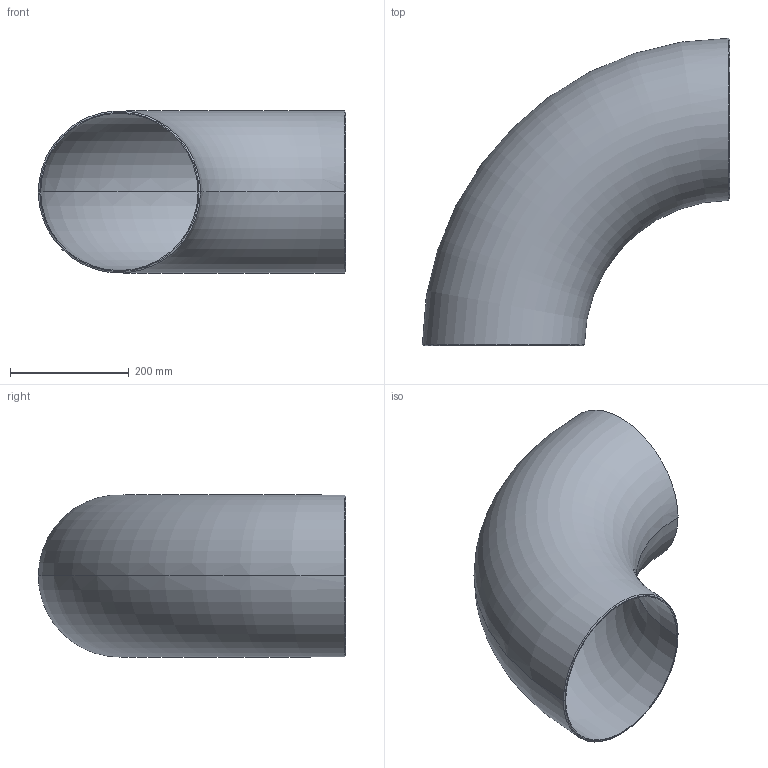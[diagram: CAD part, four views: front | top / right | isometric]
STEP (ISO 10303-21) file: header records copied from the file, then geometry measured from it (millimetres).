
FILE_DESCRIPTION (( 'STEP AP203' ), '1' );
FILE_NAME ('OT200-250-273x4_OSTP.step', '2020-12-16T03:03:48', ( '' ), ( '' ), 'SwSTEP 2.0', 'SolidWorks 2014', '' );
FILE_SCHEMA (( 'CONFIG_CONTROL_DESIGN' ));
Length unit declared in the file: millimetre
Products named in the file (1): OT200-250-273x4_OSTP
Bounding box: 517.5 x 517.5 x 272.81 mm (x, y, z)
Volume: 2012029.8 mm3; surface area: 1015927.3 mm2
Topology: 1 solids, 1 shells, 10 faces, 20 edges, 12 vertices
Faces by surface type: torus 4, cone 4, plane 2
Entity records: 614 total; most frequent: CARTESIAN_POINT 320, DIRECTION 50, ORIENTED_EDGE 40, AXIS2_PLACEMENT_3D 23, EDGE_CURVE 20, CIRCLE 12, EDGE_LOOP 12, VERTEX_POINT 12
